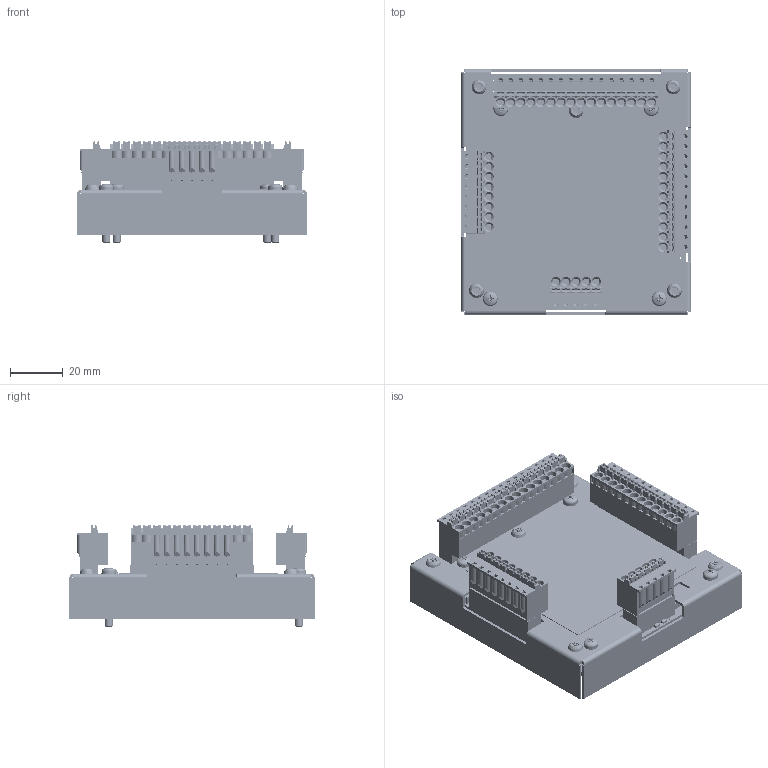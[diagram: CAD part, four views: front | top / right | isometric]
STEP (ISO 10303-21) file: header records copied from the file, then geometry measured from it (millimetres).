
FILE_DESCRIPTION(/* description */ (''),/* implementation_level */ '2;1');
FILE_NAME(/* name */ 'ETD1644-AD_WEB.stp',/* time_stamp */ '2025-03-31T12:35:07+02:00',/* author */ ('ut3'),/* organization */ (''),/* preprocessor_version */ 'ST-DEVELOPER v20',/* originating_system */ 'Autodesk Inventor 2025',/* authorisation */ '');
FILE_SCHEMA (('AUTOMOTIVE_DESIGN { 1 0 10303 214 3 1 1 }'));
Products named in the file (1): ETD1644-AD_WEB
Bounding box: 87 x 93 x 38.44 mm (x, y, z)
Volume: 63638.2 mm3; surface area: 64254.8 mm2
Topology: 1 solids, 1 shells, 6928 faces, 17270 edges, 11215 vertices
Faces by surface type: plane 4905, cylinder 1521, bspline 199, cone 115, torus 102, sphere 86
Full cylindrical faces by diameter (mm): 0.254 x461, 0.406 x95, 0.508 x2, 0.61 x3, 0.711 x2, 0.94 x5, 1.3 x41, 1.397 x5, 2.729 x4, 3 x13, 3.2 x4, 4.064 x11, 4.4 x5, 5 x3, 6 x5
Entity records: 236409 total; most frequent: CARTESIAN_POINT 61000, ORIENTED_EDGE 34378, DIRECTION 33559, EDGE_CURVE 17189, LINE 12569, VECTOR 12569, VERTEX_POINT 11215, AXIS2_PLACEMENT_3D 10495
